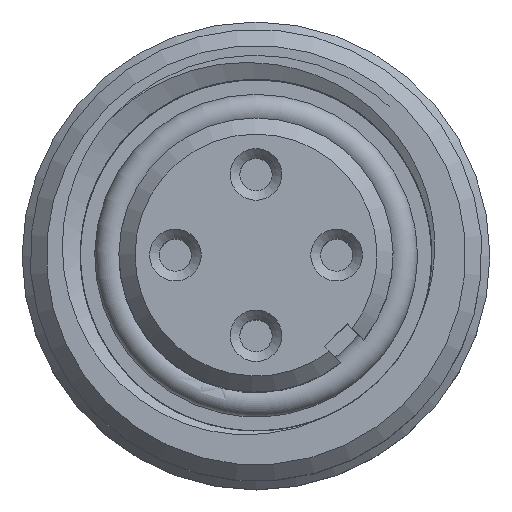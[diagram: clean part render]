
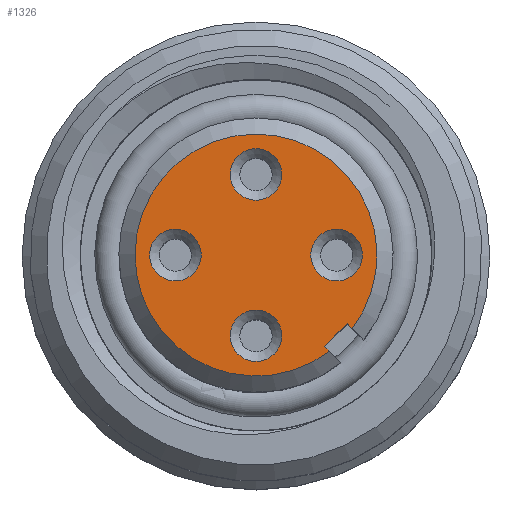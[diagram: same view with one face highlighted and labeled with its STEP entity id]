
A CAD part, top view. The second image highlights one B-rep face of the part: STEP entity #1326.
In plain terms, the highlighted planar face has unit normal (0, 0, 1).
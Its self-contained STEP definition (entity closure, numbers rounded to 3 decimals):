
#1326 = ADVANCED_FACE( '', ( #2783, #2784, #2785, #2786, #2787 ), #2788, .F. );
#2783 = FACE_BOUND( '', #5057, .T. );
#2784 = FACE_BOUND( '', #5058, .T. );
#2785 = FACE_BOUND( '', #5059, .T. );
#2786 = FACE_BOUND( '', #5060, .T. );
#2787 = FACE_OUTER_BOUND( '', #5061, .T. );
#2788 = PLANE( '', #5062 );
#5057 = EDGE_LOOP( '', ( #8936 ) );
#5058 = EDGE_LOOP( '', ( #8937 ) );
#5059 = EDGE_LOOP( '', ( #8938 ) );
#5060 = EDGE_LOOP( '', ( #8939 ) );
#5061 = EDGE_LOOP( '', ( #8940, #8941, #8942, #8943 ) );
#5062 = AXIS2_PLACEMENT_3D( '', #8944, #8945, #8946 );
#8936 = ORIENTED_EDGE( '', *, *, #10056, .T. );
#8937 = ORIENTED_EDGE( '', *, *, #11394, .T. );
#8938 = ORIENTED_EDGE( '', *, *, #11395, .T. );
#8939 = ORIENTED_EDGE( '', *, *, #10709, .T. );
#8940 = ORIENTED_EDGE( '', *, *, #11222, .F. );
#8941 = ORIENTED_EDGE( '', *, *, #10736, .F. );
#8942 = ORIENTED_EDGE( '', *, *, #10538, .T. );
#8943 = ORIENTED_EDGE( '', *, *, #11396, .F. );
#8944 = CARTESIAN_POINT( '', ( -3.005, 3.005, 13.797 ) );
#8945 = DIRECTION( '', ( 0., 0., -1. ) );
#8946 = DIRECTION( '', ( 0.707, -0.707, 0. ) );
#10056 = EDGE_CURVE( '', #12010, #12010, #12011, .T. );
#10538 = EDGE_CURVE( '', #12808, #12812, #12814, .F. );
#10709 = EDGE_CURVE( '', #13074, #13074, #13075, .T. );
#10736 = EDGE_CURVE( '', #12808, #13112, #13113, .T. );
#11222 = EDGE_CURVE( '', #13112, #13778, #13779, .T. );
#11394 = EDGE_CURVE( '', #13980, #13980, #13981, .T. );
#11395 = EDGE_CURVE( '', #13982, #13982, #13983, .T. );
#11396 = EDGE_CURVE( '', #13778, #12812, #13984, .T. );
#12010 = VERTEX_POINT( '', #14782 );
#12011 = CIRCLE( '', #14783, 0.8 );
#12808 = VERTEX_POINT( '', #16708 );
#12812 = VERTEX_POINT( '', #16718 );
#12814 = CIRCLE( '', #16726, 3.75 );
#13074 = VERTEX_POINT( '', #17783 );
#13075 = CIRCLE( '', #17784, 0.8 );
#13112 = VERTEX_POINT( '', #17836 );
#13113 = LINE( '', #17837, #17838 );
#13778 = VERTEX_POINT( '', #18811 );
#13779 = LINE( '', #18812, #18813 );
#13980 = VERTEX_POINT( '', #19110 );
#13981 = CIRCLE( '', #19111, 0.8 );
#13982 = VERTEX_POINT( '', #19112 );
#13983 = CIRCLE( '', #19113, 0.8 );
#13984 = LINE( '', #19114, #19115 );
#14782 = CARTESIAN_POINT( '', ( 0.566, -3.066, 13.797 ) );
#14783 = AXIS2_PLACEMENT_3D( '', #19632, #19633, #19634 );
#16708 = CARTESIAN_POINT( '', ( 2.982, -2.274, 13.797 ) );
#16718 = CARTESIAN_POINT( '', ( 2.274, -2.982, 13.797 ) );
#16726 = AXIS2_PLACEMENT_3D( '', #20161, #20162, #20163 );
#17783 = CARTESIAN_POINT( '', ( -1.934, -0.566, 13.797 ) );
#17784 = AXIS2_PLACEMENT_3D( '', #20342, #20343, #20344 );
#17836 = CARTESIAN_POINT( '', ( 2.828, -2.121, 13.797 ) );
#17837 = CARTESIAN_POINT( '', ( 4.041, -3.334, 13.797 ) );
#17838 = VECTOR( '', #20369, 1000. );
#18811 = CARTESIAN_POINT( '', ( 2.121, -2.828, 13.797 ) );
#18812 = CARTESIAN_POINT( '', ( 2.828, -2.121, 13.797 ) );
#18813 = VECTOR( '', #20868, 1000. );
#19110 = CARTESIAN_POINT( '', ( 3.066, -0.566, 13.797 ) );
#19111 = AXIS2_PLACEMENT_3D( '', #21019, #21020, #21021 );
#19112 = CARTESIAN_POINT( '', ( 0.566, 1.934, 13.797 ) );
#19113 = AXIS2_PLACEMENT_3D( '', #21022, #21023, #21024 );
#19114 = CARTESIAN_POINT( '', ( 2.121, -2.828, 13.797 ) );
#19115 = VECTOR( '', #21025, 1000. );
#19632 = CARTESIAN_POINT( '', ( 0., -2.5, 13.797 ) );
#19633 = DIRECTION( '', ( 0., 0., -1. ) );
#19634 = DIRECTION( '', ( 0.707, -0.707, 0. ) );
#20161 = CARTESIAN_POINT( '', ( 0., 0., 13.797 ) );
#20162 = DIRECTION( '', ( 0., 0., -1. ) );
#20163 = DIRECTION( '', ( 0.707, -0.707, 0. ) );
#20342 = CARTESIAN_POINT( '', ( -2.5, 0., 13.797 ) );
#20343 = DIRECTION( '', ( 0., 0., -1. ) );
#20344 = DIRECTION( '', ( 0.707, -0.707, 0. ) );
#20369 = DIRECTION( '', ( -0.707, 0.707, 0. ) );
#20868 = DIRECTION( '', ( -0.707, -0.707, 0. ) );
#21019 = CARTESIAN_POINT( '', ( 2.5, 0., 13.797 ) );
#21020 = DIRECTION( '', ( 0., 0., -1. ) );
#21021 = DIRECTION( '', ( 0.707, -0.707, 0. ) );
#21022 = CARTESIAN_POINT( '', ( 0., 2.5, 13.797 ) );
#21023 = DIRECTION( '', ( 0., 0., -1. ) );
#21024 = DIRECTION( '', ( 0.707, -0.707, 0. ) );
#21025 = DIRECTION( '', ( 0.707, -0.707, 0. ) );
